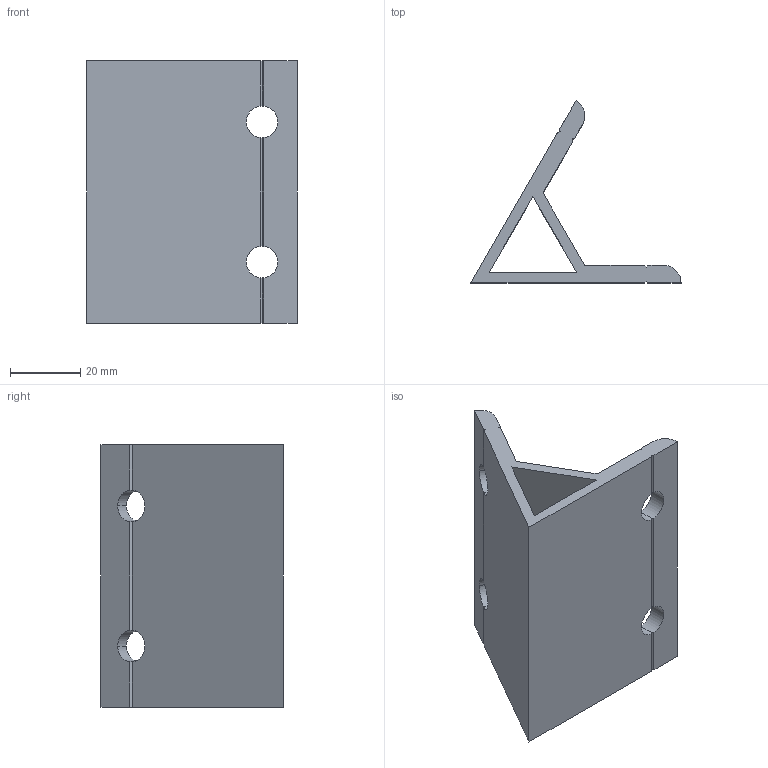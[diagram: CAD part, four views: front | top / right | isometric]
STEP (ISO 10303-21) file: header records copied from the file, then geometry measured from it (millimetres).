
FILE_DESCRIPTION (( 'STEP AP203' ), '1' );
FILE_NAME ('DALV6075-8.STEP', '2019-03-08T06:57:55', ( '' ), ( '' ), 'SwSTEP 2.0', 'SolidWorks 2012', '' );
FILE_SCHEMA (( 'CONFIG_CONTROL_DESIGN' ));
Length unit declared in the file: millimetre
Products named in the file (1): DALV6075-8
Bounding box: 60 x 51.96 x 75 mm (x, y, z)
Volume: 37786.6 mm3; surface area: 22153.8 mm2
Topology: 1 solids, 1 shells, 48 faces, 154 edges, 100 vertices
Faces by surface type: plane 38, cylinder 10
Entity records: 1779 total; most frequent: CARTESIAN_POINT 399, ORIENTED_EDGE 308, DIRECTION 248, EDGE_CURVE 154, VERTEX_POINT 100, VECTOR 94, LINE 94, AXIS2_PLACEMENT_3D 77
